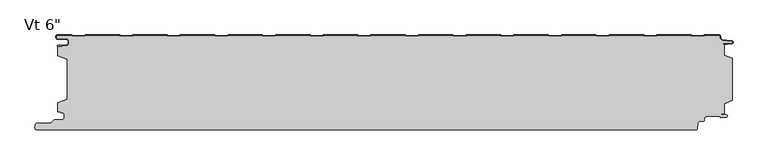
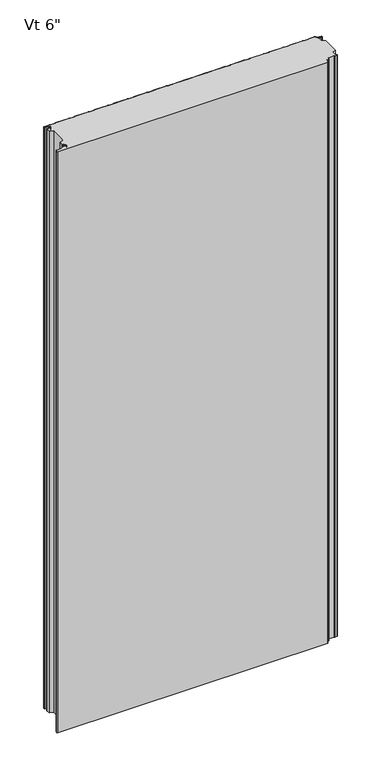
"""IFC4 building model written with IfcOpenShell, lengths in millimetres: plate geometry."""

from ifc_helpers import new_model, si_unit, point, frame, frame_2d, origin, origin_with_axes, place, context, project, spatial, polyline, circle_curve, trimmed, segment, composite_curve, outline, extrude, source, transform, mapped, element, save
from ifc_brep_helpers import plane_surface, cylinder_surface, revolved_surface, advanced_brep


def plate_f24b289d(model_context):
    return source(origin(), model_context, "Body", "SolidModel", [
        advanced_brep(
        [(-526.0754696, -124.3045169, 2400.0), (-522.7254697, -127.6545168, 2400.0), (-522.7254697, -132.0545166, 2400.0), (-526.0754696, -135.4045165, 2400.0), (-537.8863818, -135.4045165, 2400.0), (-539.0884633, -135.902435, 2400.0), (-543.8290223, -140.6429939, 2400.0), (-545.6674999, -141.4045163, 2400.0), (-566.6742572, -141.4045163, 2400.0), (-569.3639643, -143.8689835, 2400.0), (-569.7796495, -148.6159721, 2400.0), (-567.22876, -151.4, 2400.0), (487.6519047, -151.4, 2400.0), (489.5344274, -149.6750281, 2400.0), (490.2810225, -141.1438082, 2400.0), (490.8950589, -139.5647769, 2400.0), (493.2848524, -138.3909787, 2400.0), (498.6449659, -138.3909787, 2400.0), (500.4449659, -136.5909787, 2400.0), (500.4449659, -134.300418, 2400.0), (504.4449659, -130.300418, 2400.0), (523.9824407, -130.300418, 2400.0), (525.9423153, -131.1919416, 2400.0), (526.8881383, -132.2769402, 2400.0), (535.7430969, -131.9263694, 2400.0), (535.7400007, -127.7257796, 2400.0), (527.7295248, -127.2370324, 2400.0), (527.790425, -126.2388885, 2400.0), (532.327531, -126.5157133, 2400.0), (532.327531, -109.6948412, 2400.0), (545.5274637, -104.5615374, 2400.0), (545.5274637, -37.6469837, 2400.0), (532.327531, -32.5136753, 2400.0), (532.327531, -15.2947081, 2400.0), (530.7283, -15.4069152, 2400.0), (530.6583089, -14.4093676, 2400.0), (544.1268009, -13.4643757, 2400.0), (544.183689, -10.0073134, 2400.0), (529.6309436, -8.4976379, 2400.0), (525.6580508, -4.0912842, 2400.0), (525.6580508, -2.3999791, 2400.0), (524.2580508, -0.9999791, 2400.0), (501.3726136, -0.9999791, 2400.0), (500.172362, -2.2002307, 2400.0), (480.5369023, -2.2002307, 2400.0), (479.3366715, -1.0, 2400.0), (425.1891835, -1.0, 2400.0), (423.9889528, -2.2002307, 2400.0), (404.353493, -2.2002307, 2400.0), (403.1532623, -1.0, 2400.0), (349.0057743, -1.0, 2400.0), (347.8055436, -2.2002307, 2400.0), (328.1700838, -2.2002307, 2400.0), (326.9698531, -1.0, 2400.0), (272.8223651, -1.0, 2400.0), (271.6221343, -2.2002307, 2400.0), (251.9866746, -2.2002307, 2400.0), (250.7864439, -1.0, 2400.0), (196.6225175, -1.0, 2400.0), (195.4222867, -2.2002307, 2400.0), (175.786827, -2.2002307, 2400.0), (174.5865963, -1.0, 2400.0), (120.4391082, -1.0, 2400.0), (119.2388775, -2.2002307, 2400.0), (99.6034178, -2.2002307, 2400.0), (98.403187, -1.0, 2400.0), (44.255699, -1.0, 2400.0), (43.0554683, -2.2002307, 2400.0), (23.4200086, -2.2002307, 2400.0), (22.2197778, -1.0, 2400.0), (-31.9441486, -1.0, 2400.0), (-33.1443793, -2.2002307, 2400.0), (-52.779839, -2.2002307, 2400.0), (-53.9800698, -1.0, 2400.0), (-108.1275578, -1.0, 2400.0), (-109.3277885, -2.2002307, 2400.0), (-128.9632483, -2.2002307, 2400.0), (-130.163479, -1.0, 2400.0), (-184.310967, -1.0, 2400.0), (-185.5111978, -2.2002307, 2400.0), (-205.1466575, -2.2002307, 2400.0), (-206.3468882, -1.0, 2400.0), (-260.5108146, -1.0, 2400.0), (-261.7110454, -2.2002307, 2400.0), (-281.3465051, -2.2002307, 2400.0), (-282.5467358, -1.0, 2400.0), (-336.6942238, -1.0, 2400.0), (-337.8944546, -2.2002307, 2400.0), (-357.5299143, -2.2002307, 2400.0), (-358.730145, -1.0, 2400.0), (-412.8776331, -1.0, 2400.0), (-414.0778638, -2.2002307, 2400.0), (-433.7133235, -2.2002307, 2400.0), (-434.9135543, -1.0, 2400.0), (-489.0774807, -1.0, 2400.0), (-490.2777114, -2.2002307, 2400.0), (-509.9131711, -2.2002307, 2400.0), (-511.1133915, -1.0000103, 2400.0), (-533.7839771, -1.0000103, 2400.0), (-535.248695, -2.3984828, 2400.0), (-535.248695, -3.9515996, 2400.0), (-533.0386397, -6.1616549, 2400.0), (-519.5094117, -6.1616549, 2400.0), (-515.7894255, -9.881641, 2400.0), (-515.7894255, -13.5282389, 2400.0), (-519.5094219, -17.2482353, 2400.0), (-525.8545399, -17.2482353, 2400.0), (-525.6919341, -18.1704184, 2400.0), (-531.9454632, -19.2730843, 2400.0), (-533.4000002, -18.7244571, 2400.0), (-533.4000002, -33.5050578, 2400.0), (-518.4020469, -39.1301019, 2400.0), (-518.3882813, -102.5686066, 2400.0), (-533.4000002, -108.1928342, 2400.0), (-533.4000002, -123.2748213, 2400.0), (-532.5329867, -122.9060333, 2400.0), (-528.774586, -122.9060333, 2400.0), (-528.774586, -124.3045169, 2400.0), (-526.0754696, -124.3045169, 0.0), (-528.774586, -124.3045169, 0.0), (-528.774586, -122.9060333, 0.0), (-532.5329867, -122.9060333, 0.0), (-533.4000002, -123.2748213, 0.0), (-533.4000002, -108.1928342, 0.0), (-518.4020469, -102.5686066, 0.0), (-518.3882813, -39.1301019, 0.0), (-533.4000002, -33.5050578, 0.0), (-533.4000002, -18.7244571, 0.0), (-531.9454632, -19.2730843, 0.0), (-525.6919341, -18.1704184, 0.0), (-525.8545399, -17.2482353, 0.0), (-519.5094219, -17.2482353, 0.0), (-515.7894255, -13.5282389, 0.0), (-515.7894255, -9.881641, 0.0), (-519.5094117, -6.1616549, 0.0), (-533.0386397, -6.1616549, 0.0), (-535.2486951, -3.9515996, 0.0), (-535.248695, -2.3984828, 0.0), (-533.7839771, -1.0000103, 0.0), (-511.1133915, -1.0000103, 0.0), (-509.9131711, -2.2002307, 0.0), (-490.2777114, -2.2002307, 0.0), (-489.0774807, -1.0, 0.0), (-434.9135543, -1.0, 0.0), (-433.7133235, -2.2002307, 0.0), (-414.0778638, -2.2002307, 0.0), (-412.8776331, -1.0, 0.0), (-358.730145, -1.0, 0.0), (-357.5299143, -2.2002307, 0.0), (-337.8944546, -2.2002307, 0.0), (-336.6942238, -1.0, 0.0), (-282.5467358, -1.0, 0.0), (-281.3465051, -2.2002307, 0.0), (-261.7110454, -2.2002307, 0.0), (-260.5108146, -1.0, 0.0), (-206.3468882, -1.0, 0.0), (-205.1466575, -2.2002307, 0.0), (-185.5111978, -2.2002307, 0.0), (-184.310967, -1.0, 0.0), (-130.163479, -1.0, 0.0), (-128.9632483, -2.2002307, 0.0), (-109.3277885, -2.2002307, 0.0), (-108.1275578, -1.0, 0.0), (-53.9800698, -1.0, 0.0), (-52.779839, -2.2002307, 0.0), (-33.1443793, -2.2002307, 0.0), (-31.9441486, -1.0, 0.0), (22.2197778, -1.0, 0.0), (23.4200086, -2.2002307, 0.0), (43.0554683, -2.2002307, 0.0), (44.255699, -1.0, 0.0), (98.403187, -1.0, 0.0), (99.6034178, -2.2002307, 0.0), (119.2388775, -2.2002307, 0.0), (120.4391082, -1.0, 0.0), (174.5865963, -1.0, 0.0), (175.786827, -2.2002307, 0.0), (195.4222867, -2.2002307, 0.0), (196.6225175, -1.0, 0.0), (250.7864439, -1.0, 0.0), (251.9866746, -2.2002307, 0.0), (271.6221343, -2.2002307, 0.0), (272.8223651, -1.0, 0.0), (326.9698531, -1.0, 0.0), (328.1700838, -2.2002307, 0.0), (347.8055436, -2.2002307, 0.0), (349.0057743, -1.0, 0.0), (403.1532623, -1.0, 0.0), (404.353493, -2.2002307, 0.0), (423.9889528, -2.2002307, 0.0), (425.1891835, -1.0, 0.0), (479.3366715, -1.0, 0.0), (480.5369023, -2.2002307, 0.0), (500.172362, -2.2002307, 0.0), (501.3726136, -0.9999791, 0.0), (524.2580508, -0.9999791, 0.0), (525.6580508, -2.3999791, 0.0), (525.6580508, -4.0912842, 0.0), (529.6309436, -8.4976379, 0.0), (544.183689, -10.0073134, 0.0), (544.1268009, -13.4643757, 0.0), (530.6583089, -14.4093676, 0.0), (530.7283, -15.4069152, 0.0), (532.327531, -15.2947081, 0.0), (532.327531, -32.5136753, 0.0), (545.5274637, -37.6469837, 0.0), (545.5274637, -104.5615374, 0.0), (532.327531, -109.6948412, 0.0), (532.327531, -126.5157133, 0.0), (527.790425, -126.2388885, 0.0), (527.7295248, -127.2370324, 0.0), (535.7400007, -127.7257796, 0.0), (535.7430969, -131.9263694, 0.0), (526.8881383, -132.2769402, 0.0), (525.9423153, -131.1919416, 0.0), (523.9824407, -130.300418, 0.0), (504.4449659, -130.300418, 0.0), (500.4449659, -134.300418, 0.0), (500.4449659, -136.5909787, 0.0), (498.6449659, -138.3909787, 0.0), (493.2848524, -138.3909787, 0.0), (490.8950589, -139.5647769, 0.0), (490.2810225, -141.1438082, 0.0), (489.5344274, -149.6750281, 0.0), (487.6519047, -151.4, 0.0), (-567.22876, -151.4, 0.0), (-569.7796495, -148.6159721, 0.0), (-569.3639643, -143.8689835, 0.0), (-566.6742572, -141.4045163, 0.0), (-545.6674999, -141.4045163, 0.0), (-543.8290223, -140.6429939, 0.0), (-539.0884633, -135.902435, 0.0), (-537.8863818, -135.4045165, 0.0), (-526.0754696, -135.4045165, 0.0), (-522.7254697, -132.0545166, 0.0), (-522.7254697, -127.6545168, 0.0)],
        [
            (0, 1, circle_curve(frame((-526.0754696, -127.6545168, 2400.0), z_axis=(0.0, 0.0, -1.0), x_axis=(-1.0, 0.0, 0.0)), 3.3499999)),
            (1, 2),
            (2, 3, circle_curve(frame((-526.0754696, -132.0545166, 2400.0), z_axis=(0.0, 0.0, -1.0), x_axis=(-1.0, 0.0, 0.0)), 3.3499999)),
            (3, 4),
            (4, 5, circle_curve(frame((-537.8863818, -137.1045165, 2400.0), z_axis=(0.0, 0.0, 1.0), x_axis=(-1.0, 0.0, 0.0)), 1.7)),
            (5, 6),
            (6, 7, circle_curve(frame((-545.6674999, -138.8045163, 2400.0), z_axis=(0.0, 0.0, -1.0), x_axis=(-1.0, 0.0, 0.0)), 2.6)),
            (7, 8),
            (8, 9, circle_curve(frame((-566.6742572, -144.1045163, 2400.0), z_axis=(0.0, 0.0, 1.0), x_axis=(-1.0, 0.0, 0.0)), 2.7)),
            (9, 10),
            (10, 11, circle_curve(frame((-567.22876, -148.8393488, 2400.0), z_axis=(0.0, 0.0, 1.0), x_axis=(-1.0, 0.0, 0.0)), 2.5606512)),
            (11, 12),
            (12, 13, circle_curve(frame((487.6519047, -149.5102824, 2400.0), z_axis=(0.0, 0.0, 1.0), x_axis=(-1.0, 0.0, 0.0)), 1.8897176)),
            (13, 14),
            (14, 15, circle_curve(frame((493.2970771, -141.4077531, 2400.0), z_axis=(0.0, 0.0, -1.0), x_axis=(-1.0, 0.0, 0.0)), 3.027582)),
            (15, 16, circle_curve(frame((493.2751942, -141.3909631, 2400.0), z_axis=(0.0, 0.0, -1.0), x_axis=(-1.0, 0.0, 0.0)), 3.0)),
            (16, 17),
            (17, 18, circle_curve(frame((498.6449659, -136.5909787, 2400.0), z_axis=(0.0, 0.0, 1.0), x_axis=(-1.0, 0.0, 0.0)), 1.8)),
            (18, 19),
            (19, 20, circle_curve(frame((504.4449659, -134.300418, 2400.0), z_axis=(0.0, 0.0, -1.0), x_axis=(-1.0, 0.0, 0.0)), 4.0)),
            (20, 21),
            (21, 22, circle_curve(frame((523.9824407, -132.900418, 2400.0), z_axis=(0.0, 0.0, -1.0), x_axis=(-1.0, 0.0, 0.0)), 2.6)),
            (22, 23),
            (23, 24),
            (24, 25, circle_curve(frame((535.6599479, -129.8261346, 2400.0), z_axis=(0.0, 0.0, 1.0), x_axis=(-1.0, 0.0, 0.0)), 2.10188)),
            (25, 26),
            (26, 27),
            (27, 28),
            (28, 29),
            (29, 30),
            (30, 31),
            (31, 32),
            (32, 33),
            (33, 34),
            (34, 35),
            (35, 36),
            (36, 37, circle_curve(frame((544.0116441, -11.7334815, 2400.0), z_axis=(0.0, 0.0, 1.0), x_axis=(-1.0, 0.0, 0.0)), 1.7347206)),
            (37, 38),
            (38, 39, circle_curve(frame((530.0880508, -4.0912842, 2400.0), z_axis=(0.0, 0.0, -1.0), x_axis=(-1.0, 0.0, 0.0)), 4.43)),
            (39, 40),
            (40, 41, circle_curve(frame((524.2580508, -2.3999791, 2400.0), z_axis=(0.0, 0.0, 1.0), x_axis=(-1.0, 0.0, 0.0)), 1.4)),
            (41, 42),
            (42, 43),
            (43, 44),
            (44, 45),
            (45, 46),
            (46, 47),
            (47, 48),
            (48, 49),
            (49, 50),
            (50, 51),
            (51, 52),
            (52, 53),
            (53, 54),
            (54, 55),
            (55, 56),
            (56, 57),
            (57, 58),
            (58, 59),
            (59, 60),
            (60, 61),
            (61, 62),
            (62, 63),
            (63, 64),
            (64, 65),
            (65, 66),
            (66, 67),
            (67, 68),
            (68, 69),
            (69, 70),
            (70, 71),
            (71, 72),
            (72, 73),
            (73, 74),
            (74, 75),
            (75, 76),
            (76, 77),
            (77, 78),
            (78, 79),
            (79, 80),
            (80, 81),
            (81, 82),
            (82, 83),
            (83, 84),
            (84, 85),
            (85, 86),
            (86, 87),
            (87, 88),
            (88, 89),
            (89, 90),
            (90, 91),
            (91, 92),
            (92, 93),
            (93, 94),
            (94, 95),
            (95, 96),
            (96, 97),
            (97, 98),
            (98, 99, circle_curve(frame((-533.8487245, -2.3984828, 2400.0), z_axis=(0.0, 0.0, 1.0), x_axis=(-1.0, 0.0, 0.0)), 1.3999705)),
            (99, 100),
            (100, 101, circle_curve(frame((-533.0386397, -3.9515996, 2400.0), z_axis=(0.0, 0.0, 1.0), x_axis=(-1.0, 0.0, 0.0)), 2.2100553)),
            (101, 102),
            (102, 103, circle_curve(frame((-519.5094117, -9.881641, 2400.0), z_axis=(0.0, 0.0, -1.0), x_axis=(-1.0, 0.0, 0.0)), 3.7199861)),
            (103, 104),
            (104, 105, circle_curve(frame((-519.5094219, -13.5282389, 2400.0), z_axis=(0.0, 0.0, -1.0), x_axis=(-1.0, 0.0, 0.0)), 3.7199964)),
            (105, 106),
            (106, 107),
            (107, 108),
            (108, 109, circle_curve(frame((-532.2101032, -17.7722363, 2400.0), z_axis=(0.0, 0.0, -1.0), x_axis=(-1.0, 0.0, 0.0)), 1.524001)),
            (109, 110),
            (110, 111),
            (111, 112),
            (112, 113),
            (113, 114),
            (114, 115, circle_curve(frame((-532.5345014, -124.1060323, 2400.0), z_axis=(0.0, 0.0, -1.0), x_axis=(-1.0, 0.0, 0.0)), 1.2)),
            (115, 116),
            (116, 117),
            (117, 0),
            (118, 119),
            (119, 120),
            (120, 121),
            (121, 122, circle_curve(frame((-532.5345014, -124.1060323, 0.0), z_axis=(0.0, 0.0, 1.0), x_axis=(-1.0, 0.0, 0.0)), 1.2)),
            (122, 123),
            (123, 124),
            (124, 125),
            (125, 126),
            (126, 127),
            (127, 128, circle_curve(frame((-532.2101032, -17.7722363, 0.0), z_axis=(0.0, 0.0, 1.0), x_axis=(-1.0, 0.0, 0.0)), 1.524001)),
            (128, 129),
            (129, 130),
            (130, 131),
            (131, 132, circle_curve(frame((-519.5094219, -13.5282389, 0.0), z_axis=(0.0, 0.0, 1.0), x_axis=(-1.0, 0.0, 0.0)), 3.7199964)),
            (132, 133),
            (133, 134, circle_curve(frame((-519.5094117, -9.881641, 0.0), z_axis=(0.0, 0.0, 1.0), x_axis=(-1.0, 0.0, 0.0)), 3.7199861)),
            (134, 135),
            (135, 136, circle_curve(frame((-533.0386397, -3.9515996, 0.0), z_axis=(0.0, 0.0, -1.0), x_axis=(-1.0, 0.0, 0.0)), 2.2100553)),
            (136, 137),
            (137, 138, circle_curve(frame((-533.8487245, -2.3984828, 0.0), z_axis=(0.0, 0.0, -1.0), x_axis=(-1.0, 0.0, 0.0)), 1.3999705)),
            (138, 139),
            (139, 140),
            (140, 141),
            (141, 142),
            (142, 143),
            (143, 144),
            (144, 145),
            (145, 146),
            (146, 147),
            (147, 148),
            (148, 149),
            (149, 150),
            (150, 151),
            (151, 152),
            (152, 153),
            (153, 154),
            (154, 155),
            (155, 156),
            (156, 157),
            (157, 158),
            (158, 159),
            (159, 160),
            (160, 161),
            (161, 162),
            (162, 163),
            (163, 164),
            (164, 165),
            (165, 166),
            (166, 167),
            (167, 168),
            (168, 169),
            (169, 170),
            (170, 171),
            (171, 172),
            (172, 173),
            (173, 174),
            (174, 175),
            (175, 176),
            (176, 177),
            (177, 178),
            (178, 179),
            (179, 180),
            (180, 181),
            (181, 182),
            (182, 183),
            (183, 184),
            (184, 185),
            (185, 186),
            (186, 187),
            (187, 188),
            (188, 189),
            (189, 190),
            (190, 191),
            (191, 192),
            (192, 193),
            (193, 194),
            (194, 195),
            (195, 196, circle_curve(frame((524.2580508, -2.3999791, 0.0), z_axis=(0.0, 0.0, -1.0), x_axis=(-1.0, 0.0, 0.0)), 1.4)),
            (196, 197),
            (197, 198, circle_curve(frame((530.0880508, -4.0912842, 0.0), z_axis=(0.0, 0.0, 1.0), x_axis=(-1.0, 0.0, 0.0)), 4.43)),
            (198, 199),
            (199, 200, circle_curve(frame((544.0116441, -11.7334815, 0.0), z_axis=(0.0, 0.0, -1.0), x_axis=(-1.0, 0.0, 0.0)), 1.7347206)),
            (200, 201),
            (201, 202),
            (202, 203),
            (203, 204),
            (204, 205),
            (205, 206),
            (206, 207),
            (207, 208),
            (208, 209),
            (209, 210),
            (210, 211),
            (211, 212, circle_curve(frame((535.6599479, -129.8261346, 0.0), z_axis=(0.0, 0.0, -1.0), x_axis=(-1.0, 0.0, 0.0)), 2.10188)),
            (212, 213),
            (213, 214),
            (214, 215, circle_curve(frame((523.9824407, -132.900418, 0.0), z_axis=(0.0, 0.0, 1.0), x_axis=(-1.0, 0.0, 0.0)), 2.6)),
            (215, 216),
            (216, 217, circle_curve(frame((504.4449659, -134.300418, 0.0), z_axis=(0.0, 0.0, 1.0), x_axis=(-1.0, 0.0, 0.0)), 4.0)),
            (217, 218),
            (218, 219, circle_curve(frame((498.6449659, -136.5909787, 0.0), z_axis=(0.0, 0.0, -1.0), x_axis=(-1.0, 0.0, 0.0)), 1.8)),
            (219, 220),
            (220, 221, circle_curve(frame((493.2751942, -141.3909631, 0.0), z_axis=(0.0, 0.0, 1.0), x_axis=(-1.0, 0.0, 0.0)), 3.0)),
            (221, 222, circle_curve(frame((493.2970771, -141.4077531, 0.0), z_axis=(0.0, 0.0, 1.0), x_axis=(-1.0, 0.0, 0.0)), 3.027582)),
            (222, 223),
            (223, 224, circle_curve(frame((487.6519047, -149.5102824, 0.0), z_axis=(0.0, 0.0, -1.0), x_axis=(-1.0, 0.0, 0.0)), 1.8897176)),
            (224, 225),
            (225, 226, circle_curve(frame((-567.22876, -148.8393488, 0.0), z_axis=(0.0, 0.0, -1.0), x_axis=(-1.0, 0.0, 0.0)), 2.5606512)),
            (226, 227),
            (227, 228, circle_curve(frame((-566.6742572, -144.1045163, 0.0), z_axis=(0.0, 0.0, -1.0), x_axis=(-1.0, 0.0, 0.0)), 2.7)),
            (228, 229),
            (229, 230, circle_curve(frame((-545.6674999, -138.8045163, 0.0), z_axis=(0.0, 0.0, 1.0), x_axis=(-1.0, 0.0, 0.0)), 2.6)),
            (230, 231),
            (231, 232, circle_curve(frame((-537.8863818, -137.1045165, 0.0), z_axis=(0.0, 0.0, -1.0), x_axis=(-1.0, 0.0, 0.0)), 1.7)),
            (232, 233),
            (233, 234, circle_curve(frame((-526.0754696, -132.0545166, 0.0), z_axis=(0.0, 0.0, 1.0), x_axis=(-1.0, 0.0, 0.0)), 3.3499999)),
            (234, 235),
            (235, 118, circle_curve(frame((-526.0754696, -127.6545168, 0.0), z_axis=(0.0, 0.0, 1.0), x_axis=(-1.0, 0.0, 0.0)), 3.3499999)),
            (28, 208),
            (207, 29),
            (30, 206),
            (205, 31),
            (112, 124),
            (123, 113),
            (122, 114),
            (2, 234),
            (233, 3),
            (1, 235),
            (232, 4),
            (231, 5),
            (6, 230),
            (229, 7),
            (228, 8),
            (227, 9),
            (10, 226),
            (225, 11),
            (224, 12),
            (223, 13),
            (14, 222),
            (221, 15),
            (220, 16),
            (219, 17),
            (18, 218),
            (217, 19),
            (216, 20),
            (215, 21),
            (22, 214),
            (213, 23),
            (212, 24),
            (211, 25),
            (26, 210),
            (209, 27),
            (121, 115),
            (116, 120),
            (119, 117),
            (118, 0),
            (102, 134),
            (133, 103),
            (101, 135),
            (100, 136),
            (99, 137),
            (98, 138),
            (97, 139),
            (96, 140),
            (95, 141),
            (94, 142),
            (93, 143),
            (92, 144),
            (91, 145),
            (90, 146),
            (89, 147),
            (88, 148),
            (87, 149),
            (86, 150),
            (85, 151),
            (84, 152),
            (83, 153),
            (82, 154),
            (81, 155),
            (80, 156),
            (79, 157),
            (78, 158),
            (77, 159),
            (76, 160),
            (75, 161),
            (74, 162),
            (73, 163),
            (72, 164),
            (71, 165),
            (70, 166),
            (69, 167),
            (68, 168),
            (67, 169),
            (66, 170),
            (65, 171),
            (64, 172),
            (63, 173),
            (62, 174),
            (61, 175),
            (60, 176),
            (59, 177),
            (58, 178),
            (57, 179),
            (56, 180),
            (55, 181),
            (54, 182),
            (53, 183),
            (52, 184),
            (51, 185),
            (50, 186),
            (49, 187),
            (48, 188),
            (47, 189),
            (46, 190),
            (45, 191),
            (44, 192),
            (43, 193),
            (42, 194),
            (41, 195),
            (40, 196),
            (39, 197),
            (38, 198),
            (37, 199),
            (36, 200),
            (35, 201),
            (34, 202),
            (33, 203),
            (32, 204),
            (110, 126),
            (125, 111),
            (109, 127),
            (108, 128),
            (107, 129),
            (106, 130),
            (105, 131),
            (104, 132),
        ],
        [
            plane_surface(frame((-0.5362346, -151.4, 2400.0), z_axis=(0.0, 0.0, 1.0), x_axis=(0.0, -1.0, 0.0))),
            plane_surface(frame((-0.5362346, -151.4, 0.0), z_axis=(0.0, 0.0, -1.0), x_axis=(0.0, -1.0, 0.0))),
            plane_surface(frame((532.327531, -109.6948412, 2400.0), z_axis=(1.0, 0.0, 0.0), x_axis=(0.0, 0.0, -1.0))),
            plane_surface(frame((545.5274637, -102.5686066, 2400.0), z_axis=(1.0, 0.0, 0.0), x_axis=(0.0, 0.0, -1.0))),
            plane_surface(frame((545.5274637, -104.5615374, 2400.0), z_axis=(0.36244605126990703, -0.9320047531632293, 0.0), x_axis=(0.0, 0.0, -1.0))),
            plane_surface(frame((-533.4000002, -108.1928342, 2400.0), z_axis=(-0.3511231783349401, 0.9363292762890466, 0.0), x_axis=(0.0, 0.0, -1.0))),
            plane_surface(frame((-533.4000002, -123.2748213, 2400.0), z_axis=(-1.0, 0.0, 0.0), x_axis=(0.0, 0.0, -1.0))),
            revolved_surface(polyline([(-529.4254695, -132.0545166, 0.0), (-529.4254695, -132.0545166, 2400.0)]), (-526.0754696, -132.0545166, 2400.0), (0.0, 0.0, -1.0)),
            plane_surface(frame((-522.7254697, -132.0545166, 2400.0), z_axis=(-1.0, 0.0, 0.0), x_axis=(0.0, 0.0, -1.0))),
            plane_surface(frame((-537.8863818, -135.4045165, 2400.0), z_axis=(0.0, 1.0, 0.0), x_axis=(0.0, 0.0, -1.0))),
            cylinder_surface(frame((-537.8863818, -137.1045165, 2400.0), z_axis=(0.0, 0.0, 1.0), x_axis=(-1.0, 0.0, 0.0)), 1.7),
            revolved_surface(polyline([(-548.2674999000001, -138.8045163, 0.0), (-548.2674999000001, -138.8045163, 2400.0)]), (-545.6674999, -138.8045163, 2400.0), (0.0, 0.0, -1.0)),
            plane_surface(frame((-543.8290223, -140.6429939, 2400.0), z_axis=(-0.7071067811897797, 0.7071067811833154, 0.0), x_axis=(0.0, 0.0, -1.0))),
            plane_surface(frame((-566.6742572, -141.4045163, 2400.0), z_axis=(0.0, 1.0, 0.0), x_axis=(0.0, 0.0, -1.0))),
            cylinder_surface(frame((-566.6742572, -144.1045163, 2400.0), z_axis=(0.0, 0.0, 1.0), x_axis=(-1.0, 0.0, 0.0)), 2.7),
            cylinder_surface(frame((-567.22876, -148.8393488, 2400.0), z_axis=(0.0, 0.0, 1.0), x_axis=(-1.0, 0.0, 0.0)), 2.5606512),
            plane_surface(frame((-569.7796495, -148.6159721, 2400.0), z_axis=(-0.9961878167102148, 0.08723436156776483, 0.0), x_axis=(0.0, 0.0, -1.0))),
            plane_surface(frame((487.6519047, -151.4, 2400.0), z_axis=(0.0, -1.0, 0.0), x_axis=(0.0, 0.0, -1.0))),
            cylinder_surface(frame((487.6519047, -149.5102824, 2400.0), z_axis=(0.0, 0.0, 1.0), x_axis=(-1.0, 0.0, 0.0)), 1.8897176),
            revolved_surface(polyline([(490.26949510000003, -141.4077531, 0.0), (490.26949510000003, -141.4077531, 2400.0)]), (493.2970771, -141.4077531, 2400.0), (0.0, 0.0, -1.0)),
            plane_surface(frame((490.2810225, -141.1438082, 2400.0), z_axis=(0.9961925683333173, -0.08718008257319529, 0.0), x_axis=(0.0, 0.0, -1.0))),
            revolved_surface(polyline([(490.2751942, -141.3909631, 0.0), (490.2751942, -141.3909631, 2400.0)]), (493.2751942, -141.3909631, 2400.0), (0.0, 0.0, -1.0)),
            plane_surface(frame((498.6449659, -138.3909787, 2400.0), z_axis=(0.0, -1.0, 0.0), x_axis=(0.0, 0.0, -1.0))),
            plane_surface(frame((500.4449659, -134.300418, 2400.0), z_axis=(1.0, 0.0, 0.0), x_axis=(0.0, 0.0, -1.0))),
            cylinder_surface(frame((498.6449659, -136.5909787, 2400.0), z_axis=(0.0, 0.0, 1.0), x_axis=(-1.0, 0.0, 0.0)), 1.8),
            revolved_surface(polyline([(500.4449659, -134.300418, 0.0), (500.4449659, -134.300418, 2400.0)]), (504.4449659, -134.300418, 2400.0), (0.0, 0.0, -1.0)),
            plane_surface(frame((523.9824407, -130.300418, 2400.0), z_axis=(0.0, -1.0, 0.0), x_axis=(0.0, 0.0, -1.0))),
            plane_surface(frame((526.8881383, -132.2769402, 2400.0), z_axis=(-0.7537979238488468, -0.6571063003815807, 0.0), x_axis=(0.0, 0.0, -1.0))),
            revolved_surface(polyline([(521.3824407, -132.900418, 0.0), (521.3824407, -132.900418, 2400.0)]), (523.9824407, -132.900418, 2400.0), (0.0, 0.0, -1.0)),
            plane_surface(frame((535.7430969, -131.9263694, 2400.0), z_axis=(0.039559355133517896, -0.9992172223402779, 0.0), x_axis=(0.0, 0.0, -1.0))),
            cylinder_surface(frame((535.6599479, -129.8261346, 2400.0), z_axis=(0.0, 0.0, 1.0), x_axis=(-1.0, 0.0, 0.0)), 2.10188),
            plane_surface(frame((527.790425, -126.2388885, 2400.0), z_axis=(0.9981438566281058, -0.06090025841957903, 0.0), x_axis=(0.0, 0.0, -1.0))),
            plane_surface(frame((527.7295248, -127.2370324, 2400.0), z_axis=(0.06090025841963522, 0.9981438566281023, 0.0), x_axis=(0.0, 0.0, -1.0))),
            plane_surface(frame((532.327531, -126.5157133, 2400.0), z_axis=(-0.06090025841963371, -0.9981438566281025, 0.0), x_axis=(0.0, 0.0, -1.0))),
            revolved_surface(polyline([(-533.7345014, -124.1060323, 0.0), (-533.7345014, -124.1060323, 2400.0)]), (-532.5345014, -124.1060323, 2400.0), (0.0, 0.0, -1.0)),
            plane_surface(frame((-528.774586, -124.3045169, 2400.0), z_axis=(-1.0, 0.0, 0.0), x_axis=(0.0, 0.0, -1.0))),
            plane_surface(frame((-528.774586, -122.9060333, 2400.0), z_axis=(0.0, -1.0, 0.0), x_axis=(0.0, 0.0, -1.0))),
            plane_surface(frame((-526.0754696, -124.3045169, 2400.0), z_axis=(0.0, -1.0, 0.0), x_axis=(0.0, 0.0, -1.0))),
            revolved_surface(polyline([(-529.4254695, -127.6545168, 0.0), (-529.4254695, -127.6545168, 2400.0)]), (-526.0754696, -127.6545168, 2400.0), (0.0, 0.0, -1.0)),
            revolved_surface(polyline([(-523.2293978, -9.881641, 0.0), (-523.2293978, -9.881641, 2400.0)]), (-519.5094117, -9.881641, 2400.0), (0.0, 0.0, -1.0)),
            plane_surface(frame((-519.5094117, -6.1616549, 2400.0), z_axis=(0.0, -1.0, 0.0), x_axis=(0.0, 0.0, -1.0))),
            cylinder_surface(frame((-533.0386397, -3.9515996, 2400.0), z_axis=(0.0, 0.0, 1.0), x_axis=(-1.0, 0.0, 0.0)), 2.2100553),
            plane_surface(frame((-535.248695, -3.9515996, 2400.0), z_axis=(-1.0, 0.0, 0.0), x_axis=(0.0, 0.0, -1.0))),
            cylinder_surface(frame((-533.8487245, -2.3984828, 2400.0), z_axis=(0.0, 0.0, 1.0), x_axis=(-1.0, 0.0, 0.0)), 1.3999705),
            plane_surface(frame((-533.7839771, -1.0000103, 2400.0), z_axis=(0.0, 1.0, 0.0), x_axis=(0.0, 0.0, -1.0))),
            plane_surface(frame((-511.1133915, -1.0000103, 2400.0), z_axis=(0.7071067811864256, 0.7071067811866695, 0.0), x_axis=(0.0, 0.0, -1.0))),
            plane_surface(frame((-500.0954413, -2.2002307, 2400.0), z_axis=(0.0, 1.0, 0.0), x_axis=(0.0, 0.0, -1.0))),
            plane_surface(frame((-490.2777114, -2.2002307, 2400.0), z_axis=(-0.7071067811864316, 0.7071067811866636, 0.0), x_axis=(0.0, 0.0, -1.0))),
            plane_surface(frame((-489.0774807, -1.0, 2400.0), z_axis=(0.0, 1.0, 0.0), x_axis=(0.0, 0.0, -1.0))),
            plane_surface(frame((-434.9135543, -1.0, 2400.0), z_axis=(0.7071067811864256, 0.7071067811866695, 0.0), x_axis=(0.0, 0.0, -1.0))),
            plane_surface(frame((-423.8955937, -2.2002307, 2400.0), z_axis=(0.0, 1.0, 0.0), x_axis=(0.0, 0.0, -1.0))),
            plane_surface(frame((-414.0778638, -2.2002307, 2400.0), z_axis=(-0.7071067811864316, 0.7071067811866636, 0.0), x_axis=(0.0, 0.0, -1.0))),
            plane_surface(frame((-412.8776331, -1.0, 2400.0), z_axis=(0.0, 1.0, 0.0), x_axis=(0.0, 0.0, -1.0))),
            plane_surface(frame((-358.730145, -1.0, 2400.0), z_axis=(0.7071067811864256, 0.7071067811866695, 0.0), x_axis=(0.0, 0.0, -1.0))),
            plane_surface(frame((-347.7121844, -2.2002307, 2400.0), z_axis=(0.0, 1.0, 0.0), x_axis=(0.0, 0.0, -1.0))),
            plane_surface(frame((-337.8944546, -2.2002307, 2400.0), z_axis=(-0.7071067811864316, 0.7071067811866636, 0.0), x_axis=(0.0, 0.0, -1.0))),
            plane_surface(frame((-336.6942238, -1.0, 2400.0), z_axis=(0.0, 1.0, 0.0), x_axis=(0.0, 0.0, -1.0))),
            plane_surface(frame((-282.5467358, -1.0, 2400.0), z_axis=(0.7071067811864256, 0.7071067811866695, 0.0), x_axis=(0.0, 0.0, -1.0))),
            plane_surface(frame((-271.5287752, -2.2002307, 2400.0), z_axis=(0.0, 1.0, 0.0), x_axis=(0.0, 0.0, -1.0))),
            plane_surface(frame((-261.7110454, -2.2002307, 2400.0), z_axis=(-0.7071067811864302, 0.7071067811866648, 0.0), x_axis=(0.0, 0.0, -1.0))),
            plane_surface(frame((-260.5108146, -1.0, 2400.0), z_axis=(0.0, 1.0, 0.0), x_axis=(0.0, 0.0, -1.0))),
            plane_surface(frame((-206.3468882, -1.0, 2400.0), z_axis=(0.7071067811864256, 0.7071067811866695, 0.0), x_axis=(0.0, 0.0, -1.0))),
            plane_surface(frame((-195.3289276, -2.2002307, 2400.0), z_axis=(0.0, 1.0, 0.0), x_axis=(0.0, 0.0, -1.0))),
            plane_surface(frame((-185.5111978, -2.2002307, 2400.0), z_axis=(-0.7071067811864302, 0.7071067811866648, 0.0), x_axis=(0.0, 0.0, -1.0))),
            plane_surface(frame((-184.310967, -1.0, 2400.0), z_axis=(0.0, 1.0, 0.0), x_axis=(0.0, 0.0, -1.0))),
            plane_surface(frame((-130.163479, -1.0, 2400.0), z_axis=(0.7071067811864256, 0.7071067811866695, 0.0), x_axis=(0.0, 0.0, -1.0))),
            plane_surface(frame((-119.1455184, -2.2002307, 2400.0), z_axis=(0.0, 1.0, 0.0), x_axis=(0.0, 0.0, -1.0))),
            plane_surface(frame((-109.3277885, -2.2002307, 2400.0), z_axis=(-0.7071067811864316, 0.7071067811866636, 0.0), x_axis=(0.0, 0.0, -1.0))),
            plane_surface(frame((-108.1275578, -1.0, 2400.0), z_axis=(0.0, 1.0, 0.0), x_axis=(0.0, 0.0, -1.0))),
            plane_surface(frame((-53.9800698, -1.0, 2400.0), z_axis=(0.7071067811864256, 0.7071067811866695, 0.0), x_axis=(0.0, 0.0, -1.0))),
            plane_surface(frame((-42.9621092, -2.2002307, 2400.0), z_axis=(0.0, 1.0, 0.0), x_axis=(0.0, 0.0, -1.0))),
            plane_surface(frame((-33.1443793, -2.2002307, 2400.0), z_axis=(-0.707106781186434, 0.707106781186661, 0.0), x_axis=(0.0, 0.0, -1.0))),
            plane_surface(frame((-31.9441486, -1.0, 2400.0), z_axis=(0.0, 1.0, 0.0), x_axis=(0.0, 0.0, -1.0))),
            plane_surface(frame((22.2197778, -1.0, 2400.0), z_axis=(0.7071067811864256, 0.7071067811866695, 0.0), x_axis=(0.0, 0.0, -1.0))),
            plane_surface(frame((33.2377384, -2.2002307, 2400.0), z_axis=(0.0, 1.0, 0.0), x_axis=(0.0, 0.0, -1.0))),
            plane_surface(frame((43.0554683, -2.2002307, 2400.0), z_axis=(-0.7071067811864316, 0.7071067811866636, 0.0), x_axis=(0.0, 0.0, -1.0))),
            plane_surface(frame((44.255699, -1.0, 2400.0), z_axis=(0.0, 1.0, 0.0), x_axis=(0.0, 0.0, -1.0))),
            plane_surface(frame((98.403187, -1.0, 2400.0), z_axis=(0.7071067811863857, 0.7071067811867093, 0.0), x_axis=(0.0, 0.0, -1.0))),
            plane_surface(frame((109.4211476, -2.2002307, 2400.0), z_axis=(0.0, 1.0, 0.0), x_axis=(0.0, 0.0, -1.0))),
            plane_surface(frame((119.2388775, -2.2002307, 2400.0), z_axis=(-0.7071067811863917, 0.7071067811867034, 0.0), x_axis=(0.0, 0.0, -1.0))),
            plane_surface(frame((120.4391082, -1.0, 2400.0), z_axis=(0.0, 1.0, 0.0), x_axis=(0.0, 0.0, -1.0))),
            plane_surface(frame((174.5865963, -1.0, 2400.0), z_axis=(0.7071067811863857, 0.7071067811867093, 0.0), x_axis=(0.0, 0.0, -1.0))),
            plane_surface(frame((185.6045569, -2.2002307, 2400.0), z_axis=(0.0, 1.0, 0.0), x_axis=(0.0, 0.0, -1.0))),
            plane_surface(frame((195.4222867, -2.2002307, 2400.0), z_axis=(-0.7071067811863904, 0.7071067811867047, 0.0), x_axis=(0.0, 0.0, -1.0))),
            plane_surface(frame((196.6225175, -1.0, 2400.0), z_axis=(0.0, 1.0, 0.0), x_axis=(0.0, 0.0, -1.0))),
            plane_surface(frame((250.7864439, -1.0, 2400.0), z_axis=(0.7071067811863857, 0.7071067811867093, 0.0), x_axis=(0.0, 0.0, -1.0))),
            plane_surface(frame((261.8044045, -2.2002307, 2400.0), z_axis=(0.0, 1.0, 0.0), x_axis=(0.0, 0.0, -1.0))),
            plane_surface(frame((271.6221343, -2.2002307, 2400.0), z_axis=(-0.7071067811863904, 0.7071067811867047, 0.0), x_axis=(0.0, 0.0, -1.0))),
            plane_surface(frame((272.8223651, -1.0, 2400.0), z_axis=(0.0, 1.0, 0.0), x_axis=(0.0, 0.0, -1.0))),
            plane_surface(frame((326.9698531, -1.0, 2400.0), z_axis=(0.7071067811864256, 0.7071067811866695, 0.0), x_axis=(0.0, 0.0, -1.0))),
            plane_surface(frame((337.9878137, -2.2002307, 2400.0), z_axis=(0.0, 1.0, 0.0), x_axis=(0.0, 0.0, -1.0))),
            plane_surface(frame((347.8055436, -2.2002307, 2400.0), z_axis=(-0.7071067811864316, 0.7071067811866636, 0.0), x_axis=(0.0, 0.0, -1.0))),
            plane_surface(frame((349.0057743, -1.0, 2400.0), z_axis=(0.0, 1.0, 0.0), x_axis=(0.0, 0.0, -1.0))),
            plane_surface(frame((403.1532623, -1.0, 2400.0), z_axis=(0.7071067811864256, 0.7071067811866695, 0.0), x_axis=(0.0, 0.0, -1.0))),
            plane_surface(frame((414.1712229, -2.2002307, 2400.0), z_axis=(0.0, 1.0, 0.0), x_axis=(0.0, 0.0, -1.0))),
            plane_surface(frame((423.9889528, -2.2002307, 2400.0), z_axis=(-0.7071067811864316, 0.7071067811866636, 0.0), x_axis=(0.0, 0.0, -1.0))),
            plane_surface(frame((425.1891835, -1.0, 2400.0), z_axis=(0.0, 1.0, 0.0), x_axis=(0.0, 0.0, -1.0))),
            plane_surface(frame((479.3366715, -1.0, 2400.0), z_axis=(0.7071067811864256, 0.7071067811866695, 0.0), x_axis=(0.0, 0.0, -1.0))),
            plane_surface(frame((490.3546321, -2.2002307, 2400.0), z_axis=(0.0, 1.0, 0.0), x_axis=(0.0, 0.0, -1.0))),
            plane_surface(frame((500.172362, -2.2002307, 2400.0), z_axis=(-0.7071067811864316, 0.7071067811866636, 0.0), x_axis=(0.0, 0.0, -1.0))),
            plane_surface(frame((501.3726136, -0.9999791, 2400.0), z_axis=(0.0, 1.0, 0.0), x_axis=(0.0, 0.0, -1.0))),
            cylinder_surface(frame((524.2580508, -2.3999791, 2400.0), z_axis=(0.0, 0.0, 1.0), x_axis=(-1.0, 0.0, 0.0)), 1.4),
            plane_surface(frame((525.6580508, -2.3999791, 2400.0), z_axis=(1.0, 0.0, 0.0), x_axis=(0.0, 0.0, -1.0))),
            revolved_surface(polyline([(525.6580508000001, -4.0912842, 0.0), (525.6580508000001, -4.0912842, 2400.0)]), (530.0880508, -4.0912842, 2400.0), (0.0, 0.0, -1.0)),
            plane_surface(frame((529.6309436, -8.4976379, 2400.0), z_axis=(0.10318446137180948, 0.9946622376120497, 0.0), x_axis=(0.0, 0.0, -1.0))),
            cylinder_surface(frame((544.0116441, -11.7334815, 2400.0), z_axis=(0.0, 0.0, 1.0), x_axis=(-1.0, 0.0, 0.0)), 1.7347206),
            plane_surface(frame((544.1268009, -13.4643757, 2400.0), z_axis=(0.06999109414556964, -0.997547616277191, 0.0), x_axis=(0.0, 0.0, -1.0))),
            plane_surface(frame((530.6583089, -14.4093676, 2400.0), z_axis=(0.9975476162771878, 0.06999109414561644, 0.0), x_axis=(0.0, 0.0, -1.0))),
            plane_surface(frame((530.7283, -15.4069152, 2400.0), z_axis=(-0.06999109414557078, 0.997547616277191, 0.0), x_axis=(0.0, 0.0, -1.0))),
            plane_surface(frame((532.327531, -15.2947081, 2400.0), z_axis=(1.0, 0.0, 0.0), x_axis=(0.0, 0.0, -1.0))),
            plane_surface(frame((532.327531, -32.5136753, 2400.0), z_axis=(0.3624463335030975, 0.9320046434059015, 0.0), x_axis=(0.0, 0.0, -1.0))),
            plane_surface(frame((-518.4020469, -39.1301019, 2400.0), z_axis=(-0.35116785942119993, -0.9363125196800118, 0.0), x_axis=(0.0, 0.0, -1.0))),
            plane_surface(frame((-533.4000002, -33.5050578, 2400.0), z_axis=(-1.0, 0.0, 0.0), x_axis=(0.0, 0.0, -1.0))),
            revolved_surface(polyline([(-533.7341042, -17.7722363, 0.0), (-533.7341042, -17.7722363, 2400.0)]), (-532.2101032, -17.7722363, 2400.0), (0.0, 0.0, -1.0)),
            plane_surface(frame((-531.9454632, -19.2730843, 2400.0), z_axis=(-0.17364817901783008, 0.9848077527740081, 0.0), x_axis=(0.0, 0.0, -1.0))),
            plane_surface(frame((-525.6919341, -18.1704184, 2400.0), z_axis=(-0.9848077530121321, -0.17364817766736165, 0.0), x_axis=(0.0, 0.0, -1.0))),
            plane_surface(frame((-525.8545399, -17.2482353, 2400.0), z_axis=(0.0, 1.0, 0.0), x_axis=(0.0, 0.0, -1.0))),
            revolved_surface(polyline([(-523.2294183, -13.5282389, 0.0), (-523.2294183, -13.5282389, 2400.0)]), (-519.5094219, -13.5282389, 2400.0), (0.0, 0.0, -1.0)),
            plane_surface(frame((-515.7894255, -13.5282389, 2400.0), z_axis=(-1.0, 0.0, 0.0), x_axis=(0.0, 0.0, -1.0))),
            plane_surface(frame((-518.3882813, -102.5686066, 2400.0), z_axis=(-1.0, 0.0, 0.0), x_axis=(0.0, 0.0, -1.0))),
        ],
        [
            (0, [[1, 2, 3, 4, 5, 6, 7, 8, 9, 10, 11, 12, 13, 14, 15, 16, 17, 18, 19, 20, 21, 22, 23, 24, 25, 26, 27, 28, 29, 30, 31, 32, 33, 34, 35, 36, 37, 38, 39, 40, 41, 42, 43, 44, 45, 46, 47, 48, 49, 50, 51, 52, 53, 54, 55, 56, 57, 58, 59, 60, 61, 62, 63, 64, 65, 66, 67, 68, 69, 70, 71, 72, 73, 74, 75, 76, 77, 78, 79, 80, 81, 82, 83, 84, 85, 86, 87, 88, 89, 90, 91, 92, 93, 94, 95, 96, 97, 98, 99, 100, 101, 102, 103, 104, 105, 106, 107, 108, 109, 110, 111, 112, 113, 114, 115, 116, 117, 118]]),
            (1, [[119, 120, 121, 122, 123, 124, 125, 126, 127, 128, 129, 130, 131, 132, 133, 134, 135, 136, 137, 138, 139, 140, 141, 142, 143, 144, 145, 146, 147, 148, 149, 150, 151, 152, 153, 154, 155, 156, 157, 158, 159, 160, 161, 162, 163, 164, 165, 166, 167, 168, 169, 170, 171, 172, 173, 174, 175, 176, 177, 178, 179, 180, 181, 182, 183, 184, 185, 186, 187, 188, 189, 190, 191, 192, 193, 194, 195, 196, 197, 198, 199, 200, 201, 202, 203, 204, 205, 206, 207, 208, 209, 210, 211, 212, 213, 214, 215, 216, 217, 218, 219, 220, 221, 222, 223, 224, 225, 226, 227, 228, 229, 230, 231, 232, 233, 234, 235, 236]]),
            (2, [[237, -208, 238, -29]]),
            (3, [[239, -206, 240, -31]]),
            (4, [[-238, -207, -239, -30]]),
            (5, [[241, -124, 242, -113]]),
            (6, [[-242, -123, 243, -114]]),
            (7, [[244, -234, 245, -3]]),
            (8, [[246, -235, -244, -2]]),
            (9, [[-245, -233, 247, -4]]),
            (10, [[-247, -232, 248, -5]]),
            (11, [[249, -230, 250, -7]]),
            (12, [[-248, -231, -249, -6]]),
            (13, [[-250, -229, 251, -8]]),
            (14, [[-251, -228, 252, -9]]),
            (15, [[253, -226, 254, -11]]),
            (16, [[-252, -227, -253, -10]]),
            (17, [[-254, -225, 255, -12]]),
            (18, [[-255, -224, 256, -13]]),
            (19, [[257, -222, 258, -15]]),
            (20, [[-256, -223, -257, -14]]),
            (21, [[-258, -221, 259, -16]]),
            (22, [[-259, -220, 260, -17]]),
            (23, [[261, -218, 262, -19]]),
            (24, [[-260, -219, -261, -18]]),
            (25, [[-262, -217, 263, -20]]),
            (26, [[-263, -216, 264, -21]]),
            (27, [[265, -214, 266, -23]]),
            (28, [[-264, -215, -265, -22]]),
            (29, [[-266, -213, 267, -24]]),
            (30, [[-267, -212, 268, -25]]),
            (31, [[269, -210, 270, -27]]),
            (32, [[-268, -211, -269, -26]]),
            (33, [[-270, -209, -237, -28]]),
            (34, [[-243, -122, 271, -115]]),
            (35, [[272, -120, 273, -117]]),
            (36, [[-271, -121, -272, -116]]),
            (37, [[-273, -119, 274, -118]]),
            (38, [[-274, -236, -246, -1]]),
            (39, [[275, -134, 276, -103]]),
            (40, [[277, -135, -275, -102]]),
            (41, [[278, -136, -277, -101]]),
            (42, [[279, -137, -278, -100]]),
            (43, [[280, -138, -279, -99]]),
            (44, [[281, -139, -280, -98]]),
            (45, [[282, -140, -281, -97]]),
            (46, [[283, -141, -282, -96]]),
            (47, [[284, -142, -283, -95]]),
            (48, [[285, -143, -284, -94]]),
            (49, [[286, -144, -285, -93]]),
            (50, [[287, -145, -286, -92]]),
            (51, [[288, -146, -287, -91]]),
            (52, [[289, -147, -288, -90]]),
            (53, [[290, -148, -289, -89]]),
            (54, [[291, -149, -290, -88]]),
            (55, [[292, -150, -291, -87]]),
            (56, [[293, -151, -292, -86]]),
            (57, [[294, -152, -293, -85]]),
            (58, [[295, -153, -294, -84]]),
            (59, [[296, -154, -295, -83]]),
            (60, [[297, -155, -296, -82]]),
            (61, [[298, -156, -297, -81]]),
            (62, [[299, -157, -298, -80]]),
            (63, [[300, -158, -299, -79]]),
            (64, [[301, -159, -300, -78]]),
            (65, [[302, -160, -301, -77]]),
            (66, [[303, -161, -302, -76]]),
            (67, [[304, -162, -303, -75]]),
            (68, [[305, -163, -304, -74]]),
            (69, [[306, -164, -305, -73]]),
            (70, [[307, -165, -306, -72]]),
            (71, [[308, -166, -307, -71]]),
            (72, [[309, -167, -308, -70]]),
            (73, [[310, -168, -309, -69]]),
            (74, [[311, -169, -310, -68]]),
            (75, [[312, -170, -311, -67]]),
            (76, [[313, -171, -312, -66]]),
            (77, [[314, -172, -313, -65]]),
            (78, [[315, -173, -314, -64]]),
            (79, [[316, -174, -315, -63]]),
            (80, [[317, -175, -316, -62]]),
            (81, [[318, -176, -317, -61]]),
            (82, [[319, -177, -318, -60]]),
            (83, [[320, -178, -319, -59]]),
            (84, [[321, -179, -320, -58]]),
            (85, [[322, -180, -321, -57]]),
            (86, [[323, -181, -322, -56]]),
            (87, [[324, -182, -323, -55]]),
            (88, [[325, -183, -324, -54]]),
            (89, [[326, -184, -325, -53]]),
            (90, [[327, -185, -326, -52]]),
            (91, [[328, -186, -327, -51]]),
            (92, [[329, -187, -328, -50]]),
            (93, [[330, -188, -329, -49]]),
            (94, [[331, -189, -330, -48]]),
            (95, [[332, -190, -331, -47]]),
            (96, [[333, -191, -332, -46]]),
            (97, [[334, -192, -333, -45]]),
            (98, [[335, -193, -334, -44]]),
            (99, [[336, -194, -335, -43]]),
            (100, [[337, -195, -336, -42]]),
            (101, [[338, -196, -337, -41]]),
            (102, [[339, -197, -338, -40]]),
            (103, [[340, -198, -339, -39]]),
            (104, [[341, -199, -340, -38]]),
            (105, [[342, -200, -341, -37]]),
            (106, [[343, -201, -342, -36]]),
            (107, [[344, -202, -343, -35]]),
            (108, [[345, -203, -344, -34]]),
            (109, [[346, -204, -345, -33]]),
            (110, [[-240, -205, -346, -32]]),
            (111, [[347, -126, 348, -111]]),
            (112, [[349, -127, -347, -110]]),
            (113, [[350, -128, -349, -109]]),
            (114, [[351, -129, -350, -108]]),
            (115, [[352, -130, -351, -107]]),
            (116, [[353, -131, -352, -106]]),
            (117, [[354, -132, -353, -105]]),
            (118, [[-276, -133, -354, -104]]),
            (119, [[-348, -125, -241, -112]]),
        ],
    ),
        extrude(outline(composite_curve([segment(polyline([(-533.7639404, -1.03e-05), (-510.699178, -1.03e-05), (-509.4989576, -1.2002307), (-490.691925, -1.2002307), (-489.4916942, 0.0), (-434.4993407, 0.0), (-433.29911, -1.2002307), (-414.4920774, -1.2002307), (-413.2918466, 0.0), (-358.3159315, 0.0), (-357.1157007, -1.2002307), (-338.3086681, -1.2002307), (-337.1084374, 0.0), (-282.1325223, 0.0), (-280.9322915, -1.2002307), (-262.1252589, -1.2002307), (-260.9250282, 0.0), (-205.9326747, 0.0), (-204.7324439, -1.2002307), (-185.9254113, -1.2002307), (-184.7251806, 0.0), (-129.7492654, 0.0), (-128.5490347, -1.2002307), (-109.7420021, -1.2002307), (-108.5417714, 0.0), (-53.5658562, 0.0), (-52.3656255, -1.2002307), (-33.5585929, -1.2002307), (-32.3583621, 0.0), (22.6339914, 0.0), (23.8342221, -1.2002307), (42.6412547, -1.2002307), (43.8414855, 0.0), (98.8174006, 0.0), (100.0176313, -1.2002307), (118.8246639, -1.2002307), (120.0248947, 0.0), (175.0008098, 0.0), (176.2010406, -1.2002307), (195.0080732, -1.2002307), (196.2083039, 0.0), (251.2006574, 0.0), (252.4008882, -1.2002307), (271.2079208, -1.2002307), (272.4081515, 0.0), (327.3840666, 0.0), (328.5842974, -1.2002307), (347.39133, -1.2002307), (348.5915607, 0.0), (403.5674759, 0.0), (404.7677066, -1.2002307), (423.5747392, -1.2002307), (424.77497, 0.0), (479.7508851, 0.0), (480.9511158, -1.2002307), (499.7581484, -1.2002307), (500.9584001, 2.09e-05), (524.2580508, 2.09e-05)]), True, "CONTINUOUS"), segment(trimmed(circle_curve(frame_2d((524.2580508, -2.3999791)), 2.4), [point((524.2580508, 2.09e-05))], [point((526.6580508, -2.3999791))], False, "CARTESIAN"), True, "CONTINUOUS"), segment(polyline([(526.6580508, -2.3999791), (526.6580508, -4.0912842)]), True, "CONTINUOUS"), segment(trimmed(circle_curve(frame_2d((530.0880508, -4.0912842)), 3.43), [point((526.6580508, -4.0912842))], [point((529.7341281, -7.5029757))], True, "CARTESIAN"), True, "CONTINUOUS"), segment(polyline([(529.7341281, -7.5029757), (544.2850973, -9.0124669)]), True, "CONTINUOUS"), segment(trimmed(circle_curve(frame_2d((544.0116441, -11.7334815)), 2.7347206), [point((544.2850973, -9.0124669))], [point((544.1951928, -14.4620355))], False, "CARTESIAN"), True, "CONTINUOUS"), segment(polyline([(544.1951928, -14.4620355), (530.7283, -15.4069152), (530.6583089, -14.4093676), (544.1268009, -13.4643757)]), True, "CONTINUOUS"), segment(trimmed(circle_curve(frame_2d((544.0116441, -11.7334815)), 1.7347206), [point((544.1268009, -13.4643757))], [point((544.183689, -10.0073134))], True, "CARTESIAN"), True, "CONTINUOUS"), segment(polyline([(544.183689, -10.0073134), (529.6309436, -8.4976379)]), True, "CONTINUOUS"), segment(trimmed(circle_curve(frame_2d((530.0880508, -4.0912842)), 4.43), [point((529.6309436, -8.4976379))], [point((525.6580508, -4.0912842))], False, "CARTESIAN"), True, "CONTINUOUS"), segment(polyline([(525.6580508, -4.0912842), (525.6580508, -2.3999791)]), True, "CONTINUOUS"), segment(trimmed(circle_curve(frame_2d((524.2580508, -2.3999791)), 1.4), [point((525.6580508, -2.3999791))], [point((524.2580508, -0.9999791))], True, "CARTESIAN"), True, "CONTINUOUS"), segment(polyline([(524.2580508, -0.9999791), (501.3726136, -0.9999791), (500.172362, -2.2002307), (480.5369023, -2.2002307), (479.3366715, -1.0), (425.1891835, -1.0), (423.9889528, -2.2002307), (404.353493, -2.2002307), (403.1532623, -1.0), (349.0057743, -1.0), (347.8055436, -2.2002307), (328.1700838, -2.2002307), (326.9698531, -1.0), (272.8223651, -1.0), (271.6221343, -2.2002307), (251.9866746, -2.2002307), (250.7864439, -1.0), (196.6225175, -1.0), (195.4222867, -2.2002307), (175.786827, -2.2002307), (174.5865963, -1.0), (120.4391082, -1.0), (119.2388775, -2.2002307), (99.6034178, -2.2002307), (98.403187, -1.0), (44.255699, -1.0), (43.0554683, -2.2002307), (23.4200086, -2.2002307), (22.2197778, -1.0), (-31.9441486, -1.0), (-33.1443793, -2.2002307), (-52.779839, -2.2002307), (-53.9800698, -1.0), (-108.1275578, -1.0), (-109.3277885, -2.2002307), (-128.9632483, -2.2002307), (-130.163479, -1.0), (-184.310967, -1.0), (-185.5111978, -2.2002307), (-205.1466575, -2.2002307), (-206.3468882, -1.0), (-260.5108146, -1.0), (-261.7110454, -2.2002307), (-281.3465051, -2.2002307), (-282.5467358, -1.0), (-336.6942238, -1.0), (-337.8944546, -2.2002307), (-357.5299143, -2.2002307), (-358.730145, -1.0), (-412.8776331, -1.0), (-414.0778638, -2.2002307), (-433.7133235, -2.2002307), (-434.9135543, -1.0), (-489.0774807, -1.0), (-490.2777114, -2.2002307), (-509.9131711, -2.2002307), (-511.1133915, -1.0000103), (-533.7839771, -1.0000103)]), True, "CONTINUOUS"), segment(trimmed(circle_curve(frame_2d((-533.8487245, -2.3984828)), 1.3999705), [point((-533.7839771, -1.0000103))], [point((-535.248695, -2.3984828))], True, "CARTESIAN"), True, "CONTINUOUS"), segment(polyline([(-535.248695, -2.3984828), (-535.248695, -3.9515996)]), True, "CONTINUOUS"), segment(trimmed(circle_curve(frame_2d((-533.0386397, -3.9515996)), 2.2100553), [point((-535.248695, -3.9515996))], [point((-533.0386397, -6.1616549))], True, "CARTESIAN"), True, "CONTINUOUS"), segment(polyline([(-533.0386397, -6.1616549), (-519.5094117, -6.1616549)]), True, "CONTINUOUS"), segment(trimmed(circle_curve(frame_2d((-519.5094117, -9.881641)), 3.7199861), [point((-519.5094117, -6.1616549))], [point((-515.7894255, -9.881641))], False, "CARTESIAN"), True, "CONTINUOUS"), segment(polyline([(-515.7894255, -9.881641), (-515.7894255, -13.5282389)]), True, "CONTINUOUS"), segment(trimmed(circle_curve(frame_2d((-519.5094219, -13.5282389)), 3.7199964), [point((-515.7894255, -13.5282389))], [point((-519.5094219, -17.2482353))], False, "CARTESIAN"), True, "CONTINUOUS"), segment(polyline([(-519.5094219, -17.2482353), (-525.8545399, -17.2482353), (-525.6919341, -18.1704184), (-531.9454632, -19.2730843)]), True, "CONTINUOUS"), segment(trimmed(circle_curve(frame_2d((-532.2101032, -17.7722363)), 1.524001), [point((-531.9454632, -19.2730843))], [point((-532.2101032, -16.2482353))], False, "CARTESIAN"), True, "CONTINUOUS"), segment(polyline([(-532.2101032, -16.2482353), (-519.5094219, -16.2482353)]), True, "CONTINUOUS"), segment(trimmed(circle_curve(frame_2d((-519.5094219, -13.5282389)), 2.7199964), [point((-519.5094219, -16.2482353))], [point((-516.7894255, -13.5282389))], True, "CARTESIAN"), True, "CONTINUOUS"), segment(polyline([(-516.7894255, -13.5282389), (-516.7894255, -9.881641)]), True, "CONTINUOUS"), segment(trimmed(circle_curve(frame_2d((-519.5094117, -9.881641)), 2.7199861), [point((-516.7894255, -9.881641))], [point((-519.5094117, -7.1616549))], True, "CARTESIAN"), True, "CONTINUOUS"), segment(polyline([(-519.5094117, -7.1616549), (-533.0386397, -7.1616549)]), True, "CONTINUOUS"), segment(trimmed(circle_curve(frame_2d((-533.0386397, -3.9515996)), 3.2100553), [point((-533.0386397, -7.1616549))], [point((-536.2486951, -3.9515996))], False, "CARTESIAN"), True, "CONTINUOUS"), segment(polyline([(-536.2486951, -3.9515996), (-536.248695, -2.3984828)]), True, "CONTINUOUS"), segment(trimmed(circle_curve(frame_2d((-533.8487245, -2.3984828)), 2.3999705), [point((-536.248695, -2.3984828))], [point((-533.7639404, -1.03e-05))], False, "CARTESIAN"), True, "CONTINUOUS")], self_intersect=False)), origin_with_axes(), (0.0, 0.0, 1.0), 2400.0),
    ])


if __name__ == "__main__":
    model = new_model("IFC4")
    model_context = context("Model", 3, world=origin())
    ifc_project = project(units=[si_unit("LENGTHUNIT", "METRE", prefix="MILLI")], contexts=[model_context])
    site = spatial("IfcSite", under=ifc_project)
    building = spatial("IfcBuilding", under=site)
    placement = place(None, origin())
    plate_shape = plate_f24b289d(model_context)
    element("IfcPlate", 1, ObjectType="KIP-42-KRHF-R19-CP-Vt-FL_SL : Vt 6\"", at=placement, inside=building, context=model_context, shape_type="MappedRepresentation", body=[
        mapped(plate_shape, transform((0.0, 0.0, 0.0), x_axis=(1.0, 0.0, 0.0), y_axis=(0.0, 1.0, 0.0), z_axis=(0.0, 0.0, 1.0))),
    ])
    save(model, "model.ifc")
